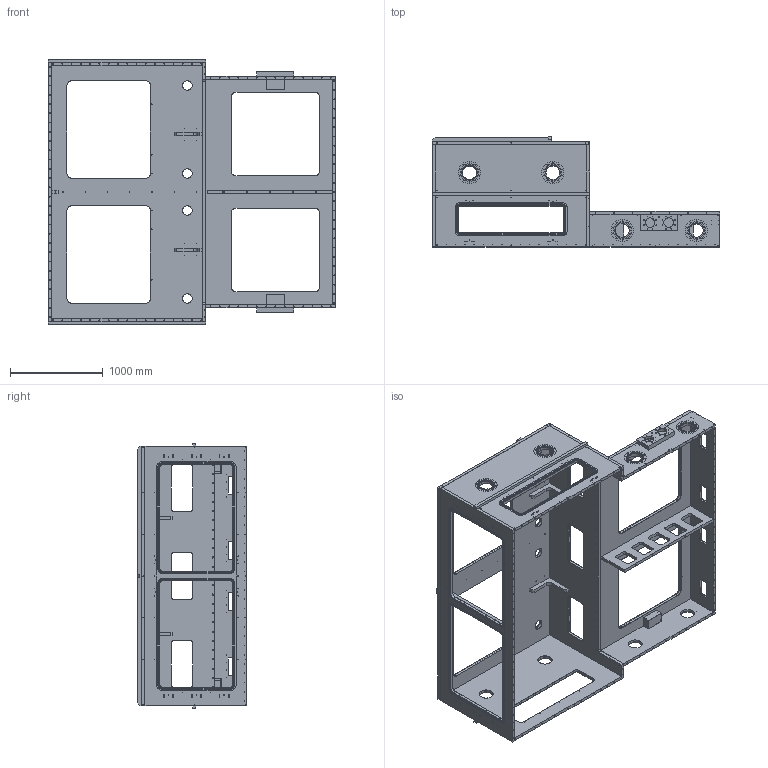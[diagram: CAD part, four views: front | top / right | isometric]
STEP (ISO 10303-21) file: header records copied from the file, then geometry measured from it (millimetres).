
FILE_DESCRIPTION (( 'STEP AP214' ), '1' );
FILE_NAME ('SXSS-28-A-02-01-001A.STEP', '2026-09-12T12:39:26', ( '' ), ( '' ), 'SwSTEP 2.0', 'SolidWorks 2024', '' );
FILE_SCHEMA (( 'AUTOMOTIVE_DESIGN' ));
Length unit declared in the file: millimetre
Products named in the file (17): SXSS-28-A-02-02-002A; SXSS-28-A-02-01-008A; SXSS-28-A-02-02-004A; SXSS-28-A-02-02-005A; SXSS-28-A-02-01-010A; SXSS-28-A-02-02-008A; SXSS-28-A-02-02-007A; SXSS-28-A-02-01-005A; SXSS-28-A-02-01-002A; SXSS-28-A-02-01-007A; SXSS-28-A-02-01-003A; SXSS-28-A-02-02-006A; SXSS-28-A-02-01-001A; SXSS-28-A-02-01-006A; SXSS-28-A-02-02-003A; SXSS-28-A-02-01-009A; SXSS-28-A-02-01-004A
Assembly tree (21 placements, depth 2):
  SXSS-28-A-02-01-001A
    SXSS-28-A-02-01-002A
    SXSS-28-A-02-01-003A  x2
    SXSS-28-A-02-01-004A
    SXSS-28-A-02-01-005A
    SXSS-28-A-02-01-006A  x2
    SXSS-28-A-02-01-007A
    SXSS-28-A-02-01-008A
    SXSS-28-A-02-01-009A  x2
    SXSS-28-A-02-01-010A
    SXSS-28-A-02-02-002A
    SXSS-28-A-02-02-003A
    SXSS-28-A-02-02-004A
    SXSS-28-A-02-02-005A
    SXSS-28-A-02-02-006A
    SXSS-28-A-02-02-007A  x2
    SXSS-28-A-02-02-008A  x2
Bounding box: 3100 x 1185 x 2860 mm (x, y, z)
Volume: 454080044.8 mm3; surface area: 32222619.5 mm2
Topology: 21 solids, 21 shells, 5243 faces, 12921 edges, 6903 vertices
Faces by surface type: cylinder 2460, cone 1958, plane 649, torus 176
Entity records: 127613 total; most frequent: DIRECTION 24155, CARTESIAN_POINT 21233, ORIENTED_EDGE 19946, EDGE_CURVE 9973, AXIS2_PLACEMENT_3D 9473, VERTEX_POINT 6191, EDGE_LOOP 5752, VECTOR 5209
